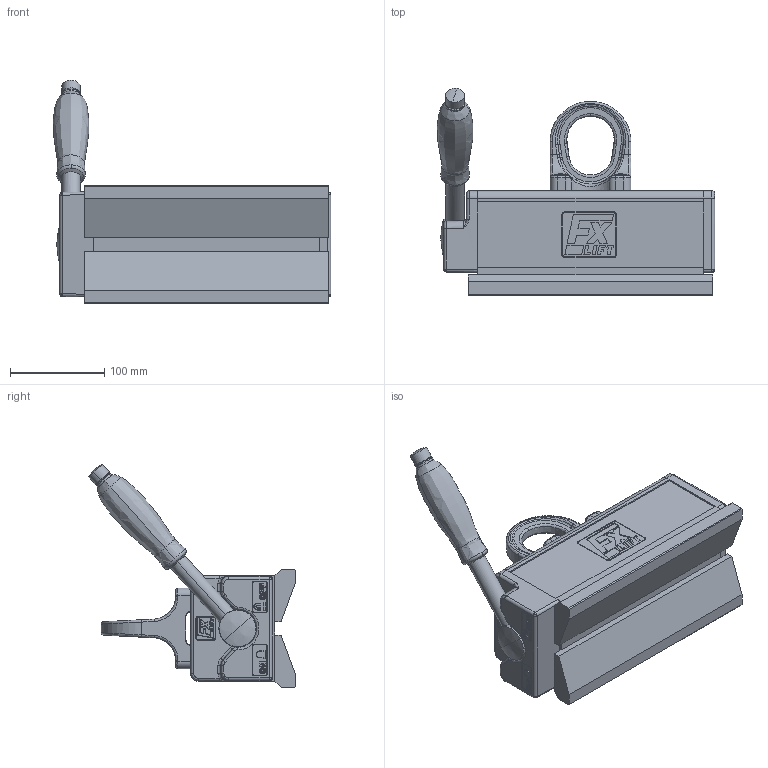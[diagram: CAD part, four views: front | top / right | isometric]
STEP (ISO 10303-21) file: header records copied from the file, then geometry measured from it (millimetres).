
FILE_DESCRIPTION (( 'STEP AP203' ), '1' );
FILE_NAME ('FX R 450- Vertrieb.STEP', '2016-09-22T06:44:47', ( '' ), ( '' ), 'SwSTEP 2.0', 'SolidWorks 2013', '' );
FILE_SCHEMA (( 'CONFIG_CONTROL_DESIGN' ));
Products named in the file (1): FX R 450- Vertrieb
Bounding box: 294.94 x 220.12 x 237.51 mm (x, y, z)
Surface area: 229143.2 mm2 (no closed solid volume)
Topology: 0 solids, 2 shells, 1302 faces, 3383 edges, 1969 vertices
Faces by surface type: bspline 482, plane 429, cylinder 347, cone 32, torus 8, sphere 4
Entity records: 61774 total; most frequent: CARTESIAN_POINT 35394, ORIENTED_EDGE 6403, DIRECTION 4049, EDGE_CURVE 3208, VERTEX_POINT 1969, LINE 1429, VECTOR 1429, EDGE_LOOP 1372
